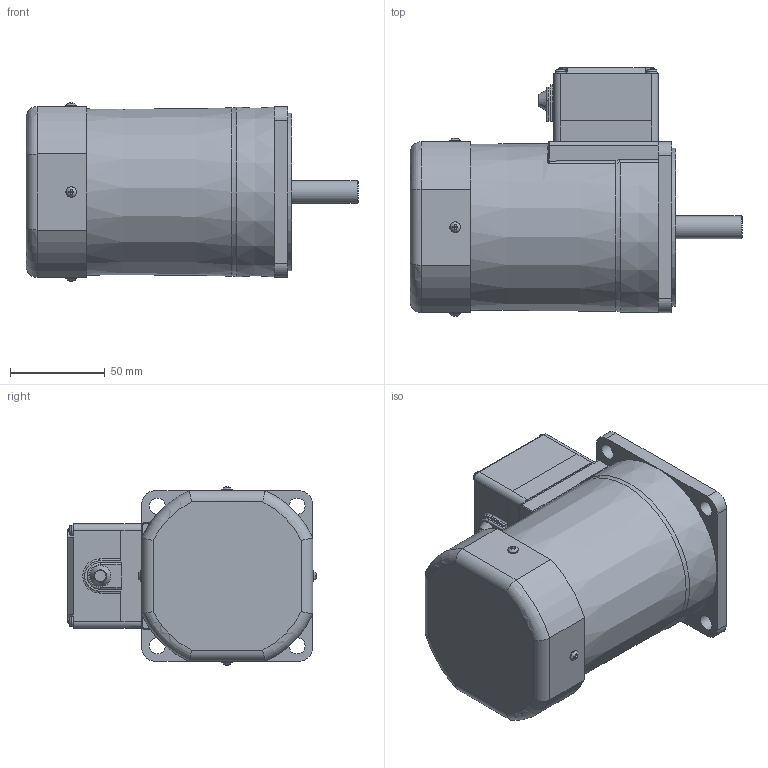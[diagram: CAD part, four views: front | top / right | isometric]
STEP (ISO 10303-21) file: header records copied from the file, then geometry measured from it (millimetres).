
FILE_DESCRIPTION(/* description */ (''),/* implementation_level */ '2;1');
FILE_NAME(/* name */ 'E:\도면작업\2016\0704) 미주향 SG 도면\3D MOTOR\TERMINAL BOX TYPE\INDUCTION TERMINAL BOX\SG9I90S_-T1.stp',/* time_stamp */ '2017-01-23T19:27:13+09:00',/* author */ ('jy-jung'),/* organization */ (''),/* preprocessor_version */ 'ST-DEVELOPER v15.6',/* originating_system */ 'Autodesk Inventor 2015',/* authorisation */ '');
FILE_SCHEMA (('AUTOMOTIVE_DESIGN { 1 0 10303 214 3 1 1 }'));
Length unit declared in the file: millimetre
Products named in the file (1): 부품2
Bounding box: 174.8 x 130.95 x 93.89 mm (x, y, z)
Volume: 1014883.7 mm3; surface area: 71343.5 mm2
Topology: 1 solids, 6 shells, 352 faces, 914 edges, 587 vertices
Faces by surface type: plane 171, cylinder 66, cone 48, torus 39, bspline 24, sphere 4
Full cylindrical faces by diameter (mm): 3 x4, 3.5 x4, 5.6 x4, 8 x1, 8.5 x4, 12 x1, 40 x1, 83 x1
Entity records: 11862 total; most frequent: CARTESIAN_POINT 3423, ORIENTED_EDGE 1710, DIRECTION 1619, EDGE_CURVE 855, AXIS2_PLACEMENT_3D 619, VERTEX_POINT 577, EDGE_LOOP 430, LINE 381
